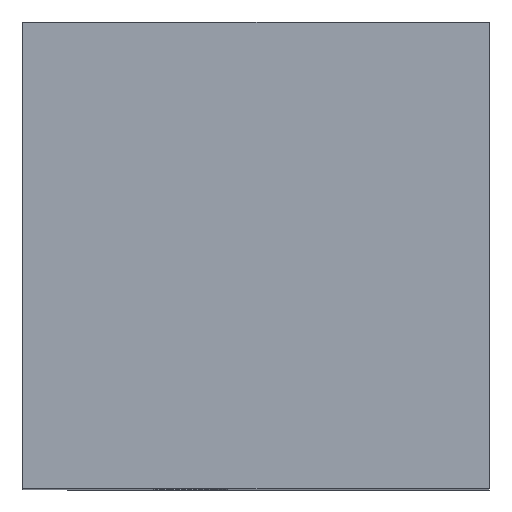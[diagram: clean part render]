
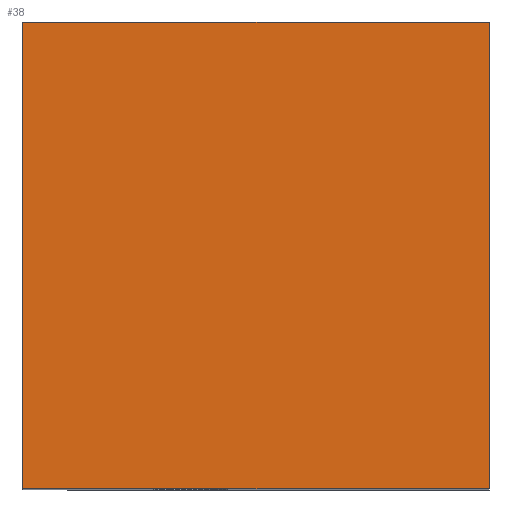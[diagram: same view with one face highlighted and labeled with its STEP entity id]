
A CAD part, top view. The second image highlights one B-rep face of the part: STEP entity #38.
In plain terms, the highlighted free-form (B-spline) face has degree [1, 1] with [2, 2] control points.
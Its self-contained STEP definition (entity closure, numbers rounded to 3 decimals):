
#38=ADVANCED_FACE('',(#63),#872,.T.);
#63=FACE_OUTER_BOUND('',#88,.T.);
#88=EDGE_LOOP('',(#185,#186,#187,#188));
#185=ORIENTED_EDGE('',*,*,#644,.T.);
#186=ORIENTED_EDGE('',*,*,#645,.T.);
#187=ORIENTED_EDGE('',*,*,#646,.T.);
#188=ORIENTED_EDGE('',*,*,#647,.T.);
#350=PCURVE('',#872,#480);
#351=PCURVE('',#872,#481);
#352=PCURVE('',#872,#482);
#353=PCURVE('',#872,#483);
#356=PCURVE('',#873,#486);
#364=PCURVE('',#874,#494);
#372=PCURVE('',#875,#502);
#386=PCURVE('',#876,#516);
#480=DEFINITIONAL_REPRESENTATION('',(#779),#1916);
#481=DEFINITIONAL_REPRESENTATION('',(#781),#1916);
#482=DEFINITIONAL_REPRESENTATION('',(#783),#1916);
#483=DEFINITIONAL_REPRESENTATION('',(#785),#1916);
#486=DEFINITIONAL_REPRESENTATION('',(#789),#1916);
#494=DEFINITIONAL_REPRESENTATION('',(#794),#1916);
#502=DEFINITIONAL_REPRESENTATION('',(#799),#1916);
#516=DEFINITIONAL_REPRESENTATION('',(#810),#1916);
#579=SURFACE_CURVE('',#778,(#350,#372),.PCURVE_S1.);
#580=SURFACE_CURVE('',#780,(#351,#364),.PCURVE_S1.);
#581=SURFACE_CURVE('',#782,(#352,#356),.PCURVE_S1.);
#582=SURFACE_CURVE('',#784,(#353,#386),.PCURVE_S1.);
#644=EDGE_CURVE('',#848,#849,#579,.T.);
#645=EDGE_CURVE('',#849,#850,#580,.T.);
#646=EDGE_CURVE('',#850,#851,#581,.T.);
#647=EDGE_CURVE('',#851,#848,#582,.T.);
#778=B_SPLINE_CURVE_WITH_KNOTS('',1,(#1781,#1782),.UNSPECIFIED.,.F.,.F.,
(2,2),(-249.997,-187.498),.UNSPECIFIED.);
#779=B_SPLINE_CURVE_WITH_KNOTS('',1,(#1783,#1784),.UNSPECIFIED.,.F.,.F.,
(2,2),(-249.997,-187.498),.UNSPECIFIED.);
#780=B_SPLINE_CURVE_WITH_KNOTS('',1,(#1785,#1786),.UNSPECIFIED.,.F.,.F.,
(2,2),(-187.498,-124.998),.UNSPECIFIED.);
#781=B_SPLINE_CURVE_WITH_KNOTS('',1,(#1787,#1788),.UNSPECIFIED.,.F.,.F.,
(2,2),(-187.498,-124.998),.UNSPECIFIED.);
#782=B_SPLINE_CURVE_WITH_KNOTS('',1,(#1789,#1790),.UNSPECIFIED.,.F.,.F.,
(2,2),(-124.998,-62.499),.UNSPECIFIED.);
#783=B_SPLINE_CURVE_WITH_KNOTS('',1,(#1791,#1792),.UNSPECIFIED.,.F.,.F.,
(2,2),(-124.998,-62.499),.UNSPECIFIED.);
#784=B_SPLINE_CURVE_WITH_KNOTS('',1,(#1793,#1794),.UNSPECIFIED.,.F.,.F.,
(2,2),(-62.499,0.),.UNSPECIFIED.);
#785=B_SPLINE_CURVE_WITH_KNOTS('',1,(#1795,#1796),.UNSPECIFIED.,.F.,.F.,
(2,2),(-62.499,0.),.UNSPECIFIED.);
#789=B_SPLINE_CURVE_WITH_KNOTS('',1,(#1803,#1804),.UNSPECIFIED.,.F.,.F.,
(2,2),(-124.998,-62.499),.UNSPECIFIED.);
#794=B_SPLINE_CURVE_WITH_KNOTS('',1,(#1829,#1830),.UNSPECIFIED.,.F.,.F.,
(2,2),(-187.498,-124.998),.UNSPECIFIED.);
#799=B_SPLINE_CURVE_WITH_KNOTS('',1,(#1855,#1856),.UNSPECIFIED.,.F.,.F.,
(2,2),(-249.997,-187.498),.UNSPECIFIED.);
#810=B_SPLINE_CURVE_WITH_KNOTS('',1,(#1895,#1896),.UNSPECIFIED.,.F.,.F.,
(2,2),(-62.499,0.),.UNSPECIFIED.);
#848=VERTEX_POINT('',#1181);
#849=VERTEX_POINT('',#1182);
#850=VERTEX_POINT('',#1183);
#851=VERTEX_POINT('',#1184);
#872=B_SPLINE_SURFACE_WITH_KNOTS('',1,1,((#1125,#1126),(#1127,#1128)),
 .UNSPECIFIED.,.F.,.F.,.F.,(2,2),(2,2),(-62.499,0.),(0.,62.499),
 .UNSPECIFIED.);
#873=B_SPLINE_SURFACE_WITH_KNOTS('',1,1,((#1129,#1130),(#1131,#1132)),
 .UNSPECIFIED.,.F.,.F.,.F.,(2,2),(2,2),(-17.502,44.997),
(-19.402,94.948),.UNSPECIFIED.);
#874=B_SPLINE_SURFACE_WITH_KNOTS('',1,1,((#1133,#1134),(#1135,#1136)),
 .UNSPECIFIED.,.F.,.F.,.F.,(2,2),(2,2),(-27.502,34.997),
(-94.948,19.402),.UNSPECIFIED.);
#875=B_SPLINE_SURFACE_WITH_KNOTS('',1,1,((#1137,#1138),(#1139,#1140)),
 .UNSPECIFIED.,.F.,.F.,.F.,(2,2),(2,2),(-20.546,96.092),
(-18.127,45.622),.UNSPECIFIED.);
#876=B_SPLINE_SURFACE_WITH_KNOTS('',1,1,((#1141,#1142),(#1143,#1144)),
 .UNSPECIFIED.,.F.,.F.,.F.,(2,2),(2,2),(-96.092,20.546),
(-28.127,35.622),.UNSPECIFIED.);
#1125=CARTESIAN_POINT('',(0.,62.499,114.351));
#1126=CARTESIAN_POINT('',(62.499,62.499,114.351));
#1127=CARTESIAN_POINT('',(0.,0.,114.351));
#1128=CARTESIAN_POINT('',(62.499,0.,114.351));
#1129=CARTESIAN_POINT('',(0.,62.499,114.351));
#1130=CARTESIAN_POINT('',(0.,62.499,0.));
#1131=CARTESIAN_POINT('',(62.499,62.499,114.351));
#1132=CARTESIAN_POINT('',(62.499,62.499,0.));
#1133=CARTESIAN_POINT('',(62.499,0.,0.));
#1134=CARTESIAN_POINT('',(62.499,0.,114.351));
#1135=CARTESIAN_POINT('',(62.499,62.499,0.));
#1136=CARTESIAN_POINT('',(62.499,62.499,114.351));
#1137=CARTESIAN_POINT('',(-0.625,0.,115.494));
#1138=CARTESIAN_POINT('',(63.124,0.,115.494));
#1139=CARTESIAN_POINT('',(-0.625,0.,-1.144));
#1140=CARTESIAN_POINT('',(63.124,0.,-1.144));
#1141=CARTESIAN_POINT('',(0.,-0.625,-1.144));
#1142=CARTESIAN_POINT('',(0.,63.124,-1.144));
#1143=CARTESIAN_POINT('',(0.,-0.625,115.494));
#1144=CARTESIAN_POINT('',(0.,63.124,115.494));
#1181=CARTESIAN_POINT('',(0.,0.,114.351));
#1182=CARTESIAN_POINT('',(62.499,0.,114.351));
#1183=CARTESIAN_POINT('',(62.499,62.499,114.351));
#1184=CARTESIAN_POINT('',(0.,62.499,114.351));
#1781=CARTESIAN_POINT('',(0.,0.,114.351));
#1782=CARTESIAN_POINT('',(62.499,0.,114.351));
#1783=CARTESIAN_POINT('',(0.,0.));
#1784=CARTESIAN_POINT('',(0.,62.499));
#1785=CARTESIAN_POINT('',(62.499,0.,114.351));
#1786=CARTESIAN_POINT('',(62.499,62.499,114.351));
#1787=CARTESIAN_POINT('',(0.,62.499));
#1788=CARTESIAN_POINT('',(-62.499,62.499));
#1789=CARTESIAN_POINT('',(62.499,62.499,114.351));
#1790=CARTESIAN_POINT('',(0.,62.499,114.351));
#1791=CARTESIAN_POINT('',(-62.499,62.499));
#1792=CARTESIAN_POINT('',(-62.499,0.));
#1793=CARTESIAN_POINT('',(0.,62.499,114.351));
#1794=CARTESIAN_POINT('',(0.,0.,114.351));
#1795=CARTESIAN_POINT('',(-62.499,0.));
#1796=CARTESIAN_POINT('',(0.,0.));
#1803=CARTESIAN_POINT('',(44.997,-19.402));
#1804=CARTESIAN_POINT('',(-17.502,-19.402));
#1829=CARTESIAN_POINT('',(-27.502,19.402));
#1830=CARTESIAN_POINT('',(34.997,19.402));
#1855=CARTESIAN_POINT('',(-19.402,-17.502));
#1856=CARTESIAN_POINT('',(-19.402,44.997));
#1895=CARTESIAN_POINT('',(19.402,34.997));
#1896=CARTESIAN_POINT('',(19.402,-27.502));
#1916=(
GEOMETRIC_REPRESENTATION_CONTEXT(2)
PARAMETRIC_REPRESENTATION_CONTEXT()
REPRESENTATION_CONTEXT('pspace','')
);
